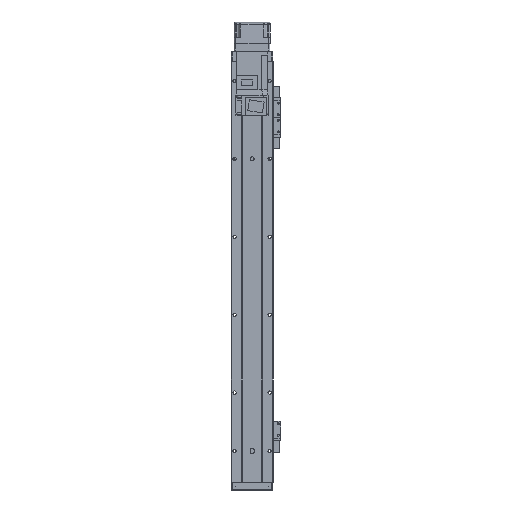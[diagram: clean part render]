
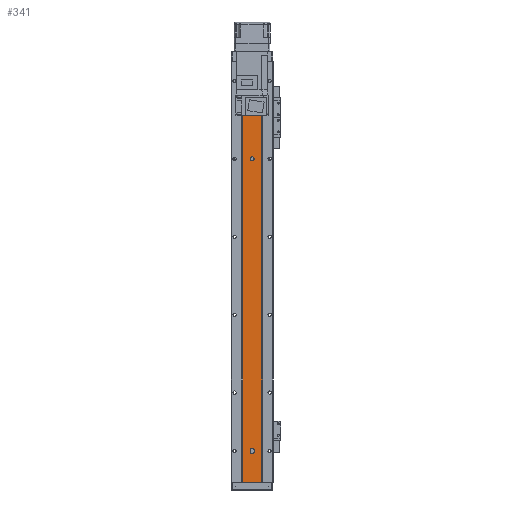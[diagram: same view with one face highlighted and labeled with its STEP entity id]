
A CAD part, front view. The second image highlights one B-rep face of the part: STEP entity #341.
In plain terms, the highlighted planar face has unit normal (0, -1, 0).
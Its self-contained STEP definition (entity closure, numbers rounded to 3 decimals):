
#62 = LINE ( 'NONE', #28286, #5639 ) ;
#341 = ADVANCED_FACE ( 'NONE', ( #23281, #14495, #14023, #6546 ), #10302, .T. ) ;
#428 = DIRECTION ( 'NONE',  ( 1., 0., 0. ) ) ;
#500 = CARTESIAN_POINT ( 'NONE',  ( 2.5, 1.5, -125. ) ) ;
#843 = CARTESIAN_POINT ( 'NONE',  ( 0., 1.5, -125. ) ) ;
#959 = LINE ( 'NONE', #2390, #5118 ) ;
#1113 = DIRECTION ( 'NONE',  ( 0., -1., 0. ) ) ;
#1600 = VERTEX_POINT ( 'NONE', #27860 ) ;
#2005 = CIRCLE ( 'NONE', #35033, 2.5 ) ;
#2390 = CARTESIAN_POINT ( 'NONE',  ( 12.293, 1.5, -540. ) ) ;
#2443 = LINE ( 'NONE', #25294, #20083 ) ;
#3108 = LINE ( 'NONE', #26090, #25836 ) ;
#3378 = VERTEX_POINT ( 'NONE', #25054 ) ;
#3756 = ORIENTED_EDGE ( 'NONE', *, *, #21520, .F. ) ;
#4010 = ORIENTED_EDGE ( 'NONE', *, *, #10935, .T. ) ;
#4165 = VERTEX_POINT ( 'NONE', #35662 ) ;
#4368 = DIRECTION ( 'NONE',  ( 0., -1., 0. ) ) ;
#5118 = VECTOR ( 'NONE', #38079, 1000. ) ;
#5559 = VERTEX_POINT ( 'NONE', #20270 ) ;
#5639 = VECTOR ( 'NONE', #10262, 1000. ) ;
#5801 = DIRECTION ( 'NONE',  ( 0., 0., 1. ) ) ;
#6052 = ORIENTED_EDGE ( 'NONE', *, *, #10709, .F. ) ;
#6086 = ORIENTED_EDGE ( 'NONE', *, *, #9608, .T. ) ;
#6400 = EDGE_CURVE ( 'NONE', #4165, #8048, #22441, .T. ) ;
#6546 = FACE_OUTER_BOUND ( 'NONE', #30884, .T. ) ;
#7291 = CIRCLE ( 'NONE', #8691, 2.5 ) ;
#7913 = EDGE_CURVE ( 'NONE', #1600, #21099, #7291, .T. ) ;
#8048 = VERTEX_POINT ( 'NONE', #500 ) ;
#8445 = ORIENTED_EDGE ( 'NONE', *, *, #17145, .F. ) ;
#8673 = CARTESIAN_POINT ( 'NONE',  ( 2.5, 1.5, -540. ) ) ;
#8691 = AXIS2_PLACEMENT_3D ( 'NONE', #23347, #38015, #35038 ) ;
#9325 = CARTESIAN_POINT ( 'NONE',  ( 12.293, 1.5, 0. ) ) ;
#9608 = EDGE_CURVE ( 'NONE', #10273, #5559, #62, .T. ) ;
#9824 = CIRCLE ( 'NONE', #27702, 2.5 ) ;
#9833 = EDGE_CURVE ( 'NONE', #10509, #11893, #18338, .T. ) ;
#10262 = DIRECTION ( 'NONE',  ( 1., 0., 0. ) ) ;
#10273 = VERTEX_POINT ( 'NONE', #35012 ) ;
#10302 = PLANE ( 'NONE',  #19015 ) ;
#10467 = EDGE_CURVE ( 'NONE', #21099, #37579, #34460, .T. ) ;
#10509 = VERTEX_POINT ( 'NONE', #23940 ) ;
#10709 = EDGE_CURVE ( 'NONE', #8048, #4165, #9824, .T. ) ;
#10935 = EDGE_CURVE ( 'NONE', #5559, #11893, #959, .T. ) ;
#11893 = VERTEX_POINT ( 'NONE', #9325 ) ;
#13003 = DIRECTION ( 'NONE',  ( 0., 0., -1. ) ) ;
#13230 = CARTESIAN_POINT ( 'NONE',  ( 0., 1.5, -125. ) ) ;
#13293 = ORIENTED_EDGE ( 'NONE', *, *, #9833, .F. ) ;
#14023 = FACE_BOUND ( 'NONE', #14917, .T. ) ;
#14029 = DIRECTION ( 'NONE',  ( 1., 0., 0. ) ) ;
#14495 = FACE_BOUND ( 'NONE', #22155, .T. ) ;
#14917 = EDGE_LOOP ( 'NONE', ( #23570, #19624 ) ) ;
#15259 = CARTESIAN_POINT ( 'NONE',  ( 2.5, 1.5, -501. ) ) ;
#15469 = VERTEX_POINT ( 'NONE', #22733 ) ;
#15514 = CIRCLE ( 'NONE', #16941, 2.5 ) ;
#16941 = AXIS2_PLACEMENT_3D ( 'NONE', #35860, #26750, #428 ) ;
#17145 = EDGE_CURVE ( 'NONE', #15469, #1600, #2443, .T. ) ;
#17302 = EDGE_CURVE ( 'NONE', #3378, #27085, #22843, .T. ) ;
#18338 = LINE ( 'NONE', #31906, #24787 ) ;
#19015 = AXIS2_PLACEMENT_3D ( 'NONE', #19500, #34420, #19129 ) ;
#19129 = DIRECTION ( 'NONE',  ( 1., 0., 0. ) ) ;
#19135 = DIRECTION ( 'NONE',  ( 0., -1., 0. ) ) ;
#19500 = CARTESIAN_POINT ( 'NONE',  ( 12.293, 1.5, -540. ) ) ;
#19624 = ORIENTED_EDGE ( 'NONE', *, *, #36135, .F. ) ;
#20083 = VECTOR ( 'NONE', #13003, 1000. ) ;
#20270 = CARTESIAN_POINT ( 'NONE',  ( 12.293, 1.5, -540. ) ) ;
#21099 = VERTEX_POINT ( 'NONE', #15259 ) ;
#21520 = EDGE_CURVE ( 'NONE', #10273, #10509, #3108, .T. ) ;
#21599 = DIRECTION ( 'NONE',  ( 1., 0., 0. ) ) ;
#22155 = EDGE_LOOP ( 'NONE', ( #6052, #31067 ) ) ;
#22413 = DIRECTION ( 'NONE',  ( 1., 0., 0. ) ) ;
#22441 = CIRCLE ( 'NONE', #33717, 2.5 ) ;
#22733 = CARTESIAN_POINT ( 'NONE',  ( -2.5, 1.5, -499. ) ) ;
#22843 = CIRCLE ( 'NONE', #35278, 2.5 ) ;
#23281 = FACE_BOUND ( 'NONE', #38293, .T. ) ;
#23347 = CARTESIAN_POINT ( 'NONE',  ( 0., 1.5, -501. ) ) ;
#23513 = DIRECTION ( 'NONE',  ( 0., 0., 1. ) ) ;
#23570 = ORIENTED_EDGE ( 'NONE', *, *, #17302, .F. ) ;
#23940 = CARTESIAN_POINT ( 'NONE',  ( -12.293, 1.5, 0. ) ) ;
#24787 = VECTOR ( 'NONE', #14029, 1000. ) ;
#25054 = CARTESIAN_POINT ( 'NONE',  ( 2.5, 1.5, -25. ) ) ;
#25294 = CARTESIAN_POINT ( 'NONE',  ( -2.5, 1.5, -540. ) ) ;
#25836 = VECTOR ( 'NONE', #23513, 1000. ) ;
#26090 = CARTESIAN_POINT ( 'NONE',  ( -12.293, 1.5, -540. ) ) ;
#26750 = DIRECTION ( 'NONE',  ( 0., -1., 0. ) ) ;
#27085 = VERTEX_POINT ( 'NONE', #31725 ) ;
#27702 = AXIS2_PLACEMENT_3D ( 'NONE', #843, #1113, #21599 ) ;
#27860 = CARTESIAN_POINT ( 'NONE',  ( -2.5, 1.5, -501. ) ) ;
#28286 = CARTESIAN_POINT ( 'NONE',  ( 12.293, 1.5, -540. ) ) ;
#29537 = ORIENTED_EDGE ( 'NONE', *, *, #7913, .F. ) ;
#29929 = CARTESIAN_POINT ( 'NONE',  ( 2.5, 1.5, -499. ) ) ;
#30884 = EDGE_LOOP ( 'NONE', ( #13293, #3756, #6086, #4010 ) ) ;
#30956 = DIRECTION ( 'NONE',  ( 1., 0., 0. ) ) ;
#31067 = ORIENTED_EDGE ( 'NONE', *, *, #6400, .F. ) ;
#31197 = CARTESIAN_POINT ( 'NONE',  ( 0., 1.5, -25. ) ) ;
#31225 = VECTOR ( 'NONE', #5801, 1000. ) ;
#31725 = CARTESIAN_POINT ( 'NONE',  ( -2.5, 1.5, -25. ) ) ;
#31906 = CARTESIAN_POINT ( 'NONE',  ( 12.293, 1.5, 0. ) ) ;
#32037 = DIRECTION ( 'NONE',  ( 0., -1., 0. ) ) ;
#33717 = AXIS2_PLACEMENT_3D ( 'NONE', #13230, #4368, #22413 ) ;
#34420 = DIRECTION ( 'NONE',  ( 0., -1., 0. ) ) ;
#34460 = LINE ( 'NONE', #8673, #31225 ) ;
#34942 = ORIENTED_EDGE ( 'NONE', *, *, #10467, .F. ) ;
#35012 = CARTESIAN_POINT ( 'NONE',  ( -12.293, 1.5, -540. ) ) ;
#35033 = AXIS2_PLACEMENT_3D ( 'NONE', #31197, #19135, #30956 ) ;
#35038 = DIRECTION ( 'NONE',  ( 1., 0., 0. ) ) ;
#35278 = AXIS2_PLACEMENT_3D ( 'NONE', #38158, #32037, #35436 ) ;
#35352 = ORIENTED_EDGE ( 'NONE', *, *, #36323, .F. ) ;
#35436 = DIRECTION ( 'NONE',  ( 1., 0., 0. ) ) ;
#35662 = CARTESIAN_POINT ( 'NONE',  ( -2.5, 1.5, -125. ) ) ;
#35860 = CARTESIAN_POINT ( 'NONE',  ( 0., 1.5, -499. ) ) ;
#36135 = EDGE_CURVE ( 'NONE', #27085, #3378, #2005, .T. ) ;
#36323 = EDGE_CURVE ( 'NONE', #37579, #15469, #15514, .T. ) ;
#37579 = VERTEX_POINT ( 'NONE', #29929 ) ;
#38015 = DIRECTION ( 'NONE',  ( 0., -1., 0. ) ) ;
#38079 = DIRECTION ( 'NONE',  ( 0., 0., 1. ) ) ;
#38158 = CARTESIAN_POINT ( 'NONE',  ( 0., 1.5, -25. ) ) ;
#38293 = EDGE_LOOP ( 'NONE', ( #29537, #8445, #35352, #34942 ) ) ;
